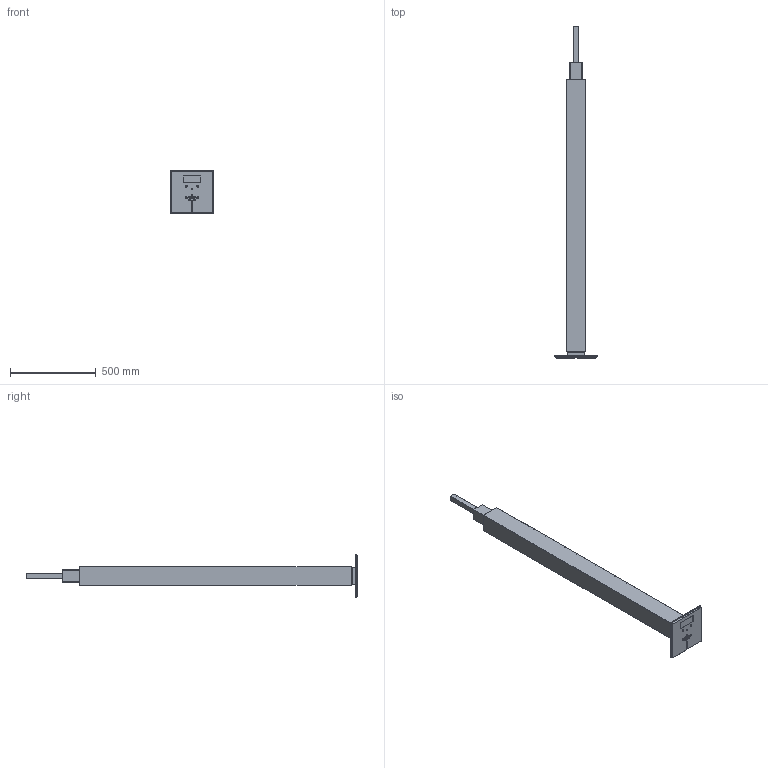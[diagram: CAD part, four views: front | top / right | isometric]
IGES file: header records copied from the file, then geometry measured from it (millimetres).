
Start section: SolidWorks IGES file using analytic representation for surfaces
Global section: file name: F:\RS\0_ 2D-3D\UPTOWN\3d (3ds,dxf,igs,stp)\UPTOWN.IGS; native system: SolidWorks 2020; preprocessor: SolidWorks 2020; author: m.tonasso; date: 201126.144230; units: millimetre
Bounding box: 250 x 1931.1 x 250 mm (x, y, z)
Surface area: 3138384.6 mm2 (no closed solid volume)
Topology: 0 solids, 0 shells, 638 faces, 5676 edges, 5652 vertices
Faces by surface type: bspline 377, revolution 261
